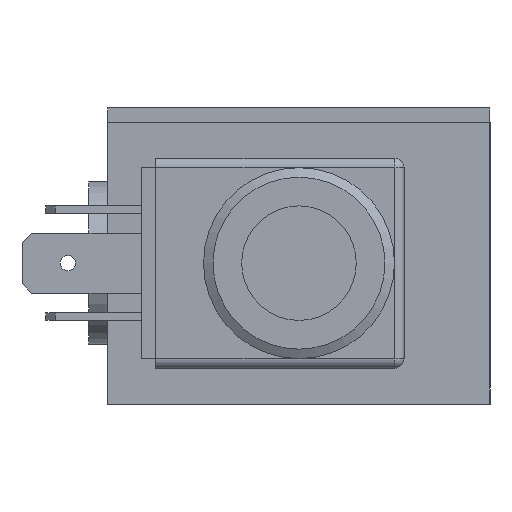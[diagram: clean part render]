
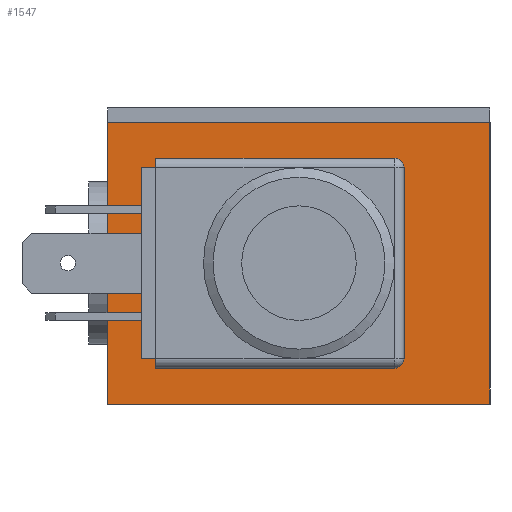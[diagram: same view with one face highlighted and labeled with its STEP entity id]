
A CAD part, left-side view. The second image highlights one B-rep face of the part: STEP entity #1547.
In plain terms, the highlighted planar face has unit normal (-1, 0, 0).
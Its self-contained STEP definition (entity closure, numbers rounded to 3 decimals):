
#662=CARTESIAN_POINT('',(-55.0,11.,-8.75));
#663=VERTEX_POINT('',#662);
#670=CARTESIAN_POINT('',(-55.0,11.0,-23.75));
#671=VERTEX_POINT('',#670);
#672=CARTESIAN_POINT('',(-55.0,11.0,-23.75));
#673=DIRECTION('',(0.0,0.0,1.0));
#674=VECTOR('',#673,15.);
#675=LINE('',#672,#674);
#676=EDGE_CURVE('',#671,#663,#675,.T.);
#704=CARTESIAN_POINT('',(-55.0,7.5,-5.25));
#705=VERTEX_POINT('',#704);
#712=CARTESIAN_POINT('',(-55.0,7.5,-8.75));
#713=DIRECTION('',(1.0,0.0,0.0));
#714=DIRECTION('',(0.0,0.0,1.0));
#715=AXIS2_PLACEMENT_3D('',#712,#713,#714);
#716=CIRCLE('',#715,3.5);
#717=EDGE_CURVE('',#663,#705,#716,.T.);
#736=CARTESIAN_POINT('',(-55.0,-7.5,-5.25));
#737=VERTEX_POINT('',#736);
#744=CARTESIAN_POINT('',(-55.0,7.5,-5.25));
#745=DIRECTION('',(0.0,-1.0,0.0));
#746=VECTOR('',#745,15.);
#747=LINE('',#744,#746);
#748=EDGE_CURVE('',#705,#737,#747,.T.);
#768=CARTESIAN_POINT('',(-55.0,-11.,-8.75));
#769=VERTEX_POINT('',#768);
#776=CARTESIAN_POINT('',(-55.0,-7.5,-8.75));
#777=DIRECTION('',(1.0,0.0,0.0));
#778=DIRECTION('',(0.0,-1.0,0.0));
#779=AXIS2_PLACEMENT_3D('',#776,#777,#778);
#780=CIRCLE('',#779,3.5);
#781=EDGE_CURVE('',#737,#769,#780,.T.);
#800=CARTESIAN_POINT('',(-55.0,-11.0,-23.75));
#801=VERTEX_POINT('',#800);
#808=CARTESIAN_POINT('',(-55.0,-11.,-8.75));
#809=DIRECTION('',(0.0,0.0,-1.0));
#810=VECTOR('',#809,15.);
#811=LINE('',#808,#810);
#812=EDGE_CURVE('',#769,#801,#811,.T.);
#832=CARTESIAN_POINT('',(-55.0,-7.5,-27.25));
#833=VERTEX_POINT('',#832);
#840=CARTESIAN_POINT('',(-55.0,-7.5,-23.75));
#841=DIRECTION('',(1.0,0.0,0.0));
#842=DIRECTION('',(0.0,0.0,-1.0));
#843=AXIS2_PLACEMENT_3D('',#840,#841,#842);
#844=CIRCLE('',#843,3.5);
#845=EDGE_CURVE('',#801,#833,#844,.T.);
#864=CARTESIAN_POINT('',(-55.0,7.5,-27.25));
#865=VERTEX_POINT('',#864);
#872=CARTESIAN_POINT('',(-55.0,-7.5,-27.25));
#873=DIRECTION('',(0.0,1.0,0.0));
#874=VECTOR('',#873,15.);
#875=LINE('',#872,#874);
#876=EDGE_CURVE('',#833,#865,#875,.T.);
#895=CARTESIAN_POINT('',(-55.0,7.5,-23.75));
#896=DIRECTION('',(1.0,0.0,0.0));
#897=DIRECTION('',(0.0,1.0,0.0));
#898=AXIS2_PLACEMENT_3D('',#895,#896,#897);
#899=CIRCLE('',#898,3.5);
#900=EDGE_CURVE('',#865,#671,#899,.T.);
#1407=CARTESIAN_POINT('',(-55.0,20.,-1.5));
#1408=VERTEX_POINT('',#1407);
#1409=CARTESIAN_POINT('',(-55.0,-20.,-1.5));
#1410=VERTEX_POINT('',#1409);
#1411=CARTESIAN_POINT('',(-55.0,20.,-1.5));
#1412=DIRECTION('',(0.0,-1.0,0.0));
#1413=VECTOR('',#1412,40.);
#1414=LINE('',#1411,#1413);
#1415=EDGE_CURVE('',#1408,#1410,#1414,.T.);
#1447=CARTESIAN_POINT('',(-55.0,-20.,-31.));
#1448=VERTEX_POINT('',#1447);
#1449=CARTESIAN_POINT('',(-55.0,-20.,-1.5));
#1450=DIRECTION('',(0.0,0.0,-1.0));
#1451=VECTOR('',#1450,29.5);
#1452=LINE('',#1449,#1451);
#1453=EDGE_CURVE('',#1410,#1448,#1452,.T.);
#1478=CARTESIAN_POINT('',(-55.0,20.,-31.));
#1479=VERTEX_POINT('',#1478);
#1480=CARTESIAN_POINT('',(-55.0,-20.,-31.));
#1481=DIRECTION('',(0.0,1.0,0.0));
#1482=VECTOR('',#1481,40.);
#1483=LINE('',#1480,#1482);
#1484=EDGE_CURVE('',#1448,#1479,#1483,.T.);
#1509=CARTESIAN_POINT('',(-55.0,20.,-31.));
#1510=DIRECTION('',(0.0,0.0,1.0));
#1511=VECTOR('',#1510,29.5);
#1512=LINE('',#1509,#1511);
#1513=EDGE_CURVE('',#1479,#1408,#1512,.T.);
#1526=CARTESIAN_POINT('',(-55.0,0.,-16.25));
#1527=DIRECTION('',(1.0,0.0,0.0));
#1528=DIRECTION('',(0.0,0.0,-1.0));
#1529=AXIS2_PLACEMENT_3D('',#1526,#1527,#1528);
#1530=PLANE('',#1529);
#1531=ORIENTED_EDGE('',*,*,#1415,.F.);
#1532=ORIENTED_EDGE('',*,*,#1513,.F.);
#1533=ORIENTED_EDGE('',*,*,#1484,.F.);
#1534=ORIENTED_EDGE('',*,*,#1453,.F.);
#1535=EDGE_LOOP('',(#1531,#1532,#1533,#1534));
#1536=FACE_OUTER_BOUND('',#1535,.T.);
#1537=ORIENTED_EDGE('',*,*,#676,.T.);
#1538=ORIENTED_EDGE('',*,*,#717,.T.);
#1539=ORIENTED_EDGE('',*,*,#748,.T.);
#1540=ORIENTED_EDGE('',*,*,#781,.T.);
#1541=ORIENTED_EDGE('',*,*,#812,.T.);
#1542=ORIENTED_EDGE('',*,*,#845,.T.);
#1543=ORIENTED_EDGE('',*,*,#876,.T.);
#1544=ORIENTED_EDGE('',*,*,#900,.T.);
#1545=EDGE_LOOP('',(#1537,#1538,#1539,#1540,#1541,#1542,#1543,#1544));
#1546=FACE_BOUND('',#1545,.T.);
#1547=ADVANCED_FACE('',(#1536,#1546),#1530,.F.);
